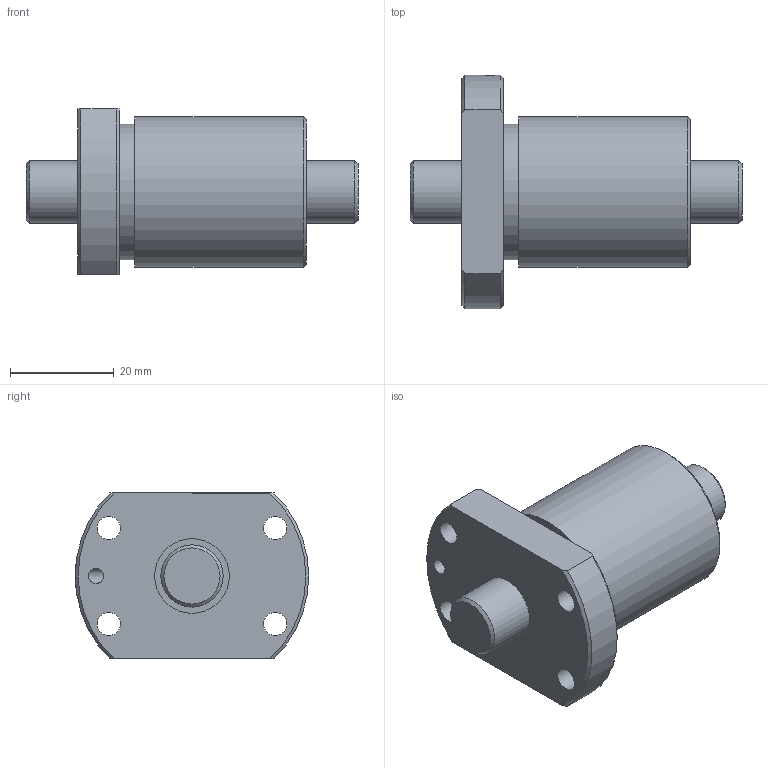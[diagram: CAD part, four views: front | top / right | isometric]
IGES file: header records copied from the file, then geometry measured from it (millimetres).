
Start section: Data from Parasolid IGES Translator 26.0.171, Copyright(c) 2006 Siemens PLM Software. All Rights Reserved.
Global section: file name: BTK1208V-2.6ZZ+64LC7T_000.igs; native system: By Siemens PLM Incorporated; preprocessor: XPlus GENERIC/IGES 26.0.171; author: Noname; organization: Noname; date: 20250116.075541; units: millimetre
Bounding box: 64 x 45 x 32 mm (x, y, z)
Surface area: 11643.2 mm2 (no closed solid volume)
Topology: 0 solids, 0 shells, 35 faces, 156 edges, 143 vertices
Faces by surface type: revolution 23, extrusion 12
